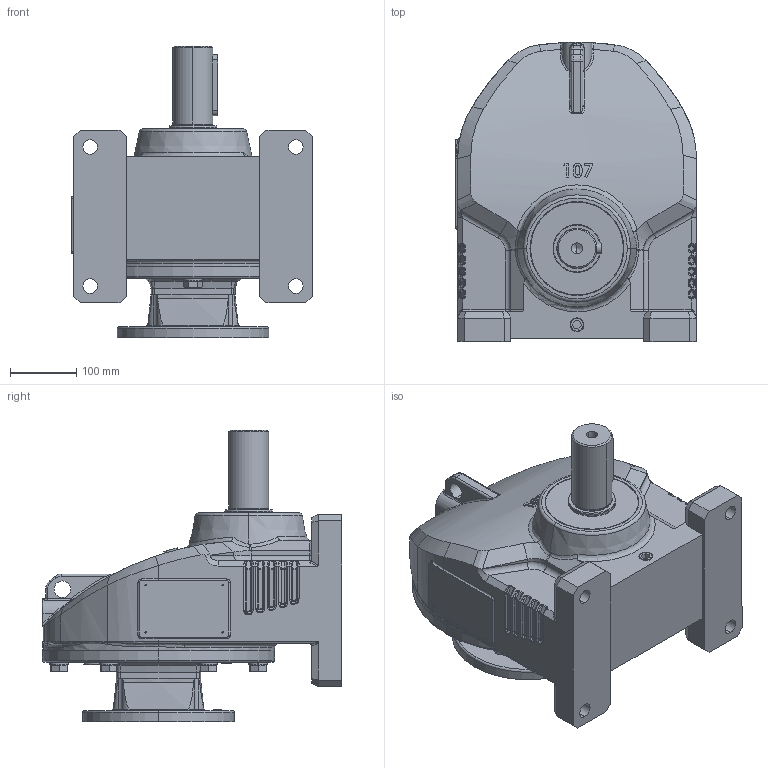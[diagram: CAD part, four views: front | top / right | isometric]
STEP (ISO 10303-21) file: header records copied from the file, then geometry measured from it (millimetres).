
FILE_DESCRIPTION (( 'STEP AP203' ), '1' );
FILE_NAME ('RX107HF-213TC.STEP', '2015-03-16T05:57:45', ( 'user' ), ( '' ), 'SwSTEP 2.0', 'SolidWorks 2012', '' );
FILE_SCHEMA (( 'CONFIG_CONTROL_DESIGN' ));
Products named in the file (28): RX107HF-213TC; JSPC060072005; PKD5_8092; PCA060_JIS B 2804 Shaft use 60; PBA6312_SKF - 6312 - 10,DE,NC,10_68; 107法蘭入力組合213T_B4; P150_JKGA3833R; P115_JKGA2827R-S; PBA6211_SKF - 6211 - 14,DE,NC,14_68; PBA6210; PWS16_JIS B 1251 No.2 16; PTBA16050_JIS B 1180 Continuous thread hexagon head bolt A M16 x 45 --N; P107_JKGA2226R; PCA022_JIS B 2804 Shaft use 22; PSS055080101; PTAA12040; KFGG213T; KNGH213Txx_KNGH213T38; JHGA10707; JKGB13798L_JKGB13798L; PJB04; PSS072140121; PCB140; PKD1811030S; PCA065_JIS B 2804 Shaft use 65; PBA6313_SKF - 6313 - 10,DE,NC,10_68; KEGX107; JCHX107
Assembly tree (44 placements, depth 3):
  RX107HF-213TC
    JCHX107
    KEGX107
    PBA6313_SKF - 6313 - 10,DE,NC,10_68
    PCA065_JIS B 2804 Shaft use 65
    PKD1811030S
    PCB140
    PSS072140121
    PJB04  x4
    JKGB13798L_JKGB13798L
    107法蘭入力組合213T_B4
      JHGA10707
      KNGH213Txx_KNGH213T38
      KFGG213T
      PTAA12040  x4
      PSS055080101
      PCA022_JIS B 2804 Shaft use 22
      P107_JKGA2226R
      PTBA16050_JIS B 1180 Continuous thread hexagon head bolt A M16 x 45 --N  x6
      PWS16_JIS B 1251 No.2 16  x6
      PBA6210
      PBA6211_SKF - 6211 - 14,DE,NC,14_68
      P115_JKGA2827R-S
      P150_JKGA3833R
      PJB04
    PBA6312_SKF - 6312 - 10,DE,NC,10_68
    PCA060_JIS B 2804 Shaft use 60
    PKD5_8092
    JSPC060072005
Bounding box: 363 x 451 x 440 mm (x, y, z)
Volume: 11767301.8 mm3; surface area: 2036257.1 mm2
Topology: 43 solids, 43 shells, 2373 faces, 6292 edges, 3917 vertices
Faces by surface type: cylinder 728, plane 686, torus 319, bspline 275, cone 257, sphere 108
Entity records: 90149 total; most frequent: CARTESIAN_POINT 37302, ORIENTED_EDGE 10872, DIRECTION 9906, EDGE_CURVE 5436, AXIS2_PLACEMENT_3D 4055, VERTEX_POINT 3439, EDGE_LOOP 2301, CIRCLE 2210
